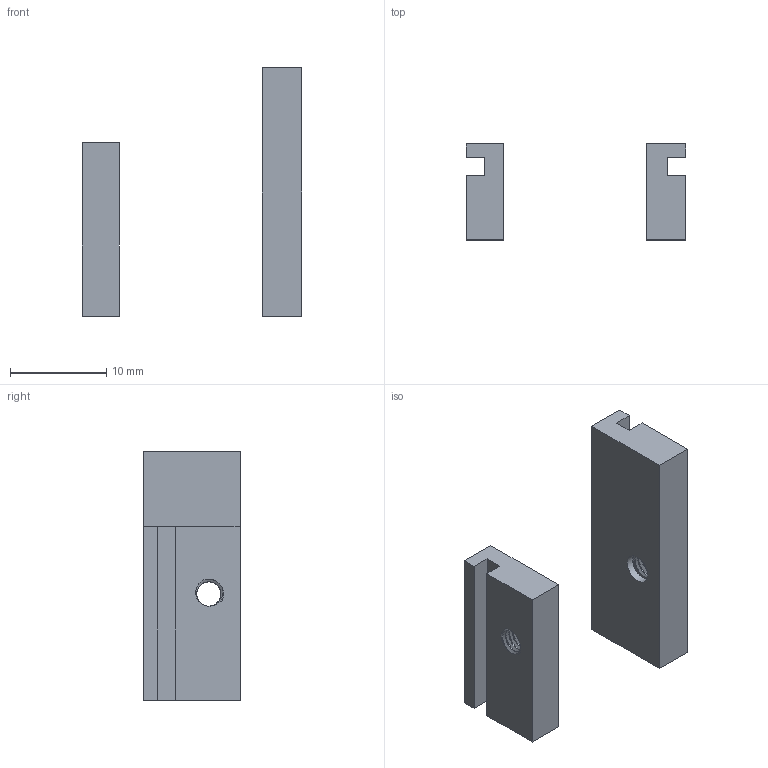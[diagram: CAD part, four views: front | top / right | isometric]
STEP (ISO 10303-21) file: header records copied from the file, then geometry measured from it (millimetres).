
FILE_DESCRIPTION(/* description */ (''),/* implementation_level */ '2;1');
FILE_NAME(/* name */ '/var/folders/q3/90_s8p4j77vgml143qxzs9nh0000gn/T/com.autodesk.mas.fusion360/Neutron/ad246b93-405d-484c-a71e-cbd9017f367f.stp',/* time_stamp */ '2019-04-30T21:59:51-04:00',/* author */ (''),/* organization */ (''),/* preprocessor_version */ 'ST-DEVELOPER v18',/* originating_system */ 'Autodesk Translation Framework v8.2.0.1029',/* authorisation */ '');
FILE_SCHEMA (('AUTOMOTIVE_DESIGN { 1 0 10303 214 3 1 1 }'));
Length unit declared in the file: millimetre
Products named in the file (1): FusionComponent
Bounding box: 22.86 x 10 x 25.9 mm (x, y, z)
Volume: 1569.4 mm3; surface area: 1639 mm2
Topology: 2 solids, 2 shells, 64 faces, 168 edges, 108 vertices
Faces by surface type: cylinder 36, plane 23, bspline 5
Full cylindrical faces by diameter (mm): 2.529 x12, 3 x2, 3.086 x16
Entity records: 5933 total; most frequent: CARTESIAN_POINT 4473, ORIENTED_EDGE 336, DIRECTION 226, EDGE_CURVE 168, VERTEX_POINT 108, B_SPLINE_CURVE_WITH_KNOTS 78, AXIS2_PLACEMENT_3D 76, LINE 74
